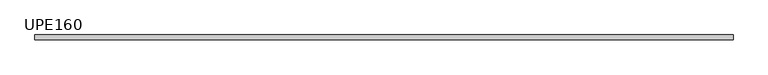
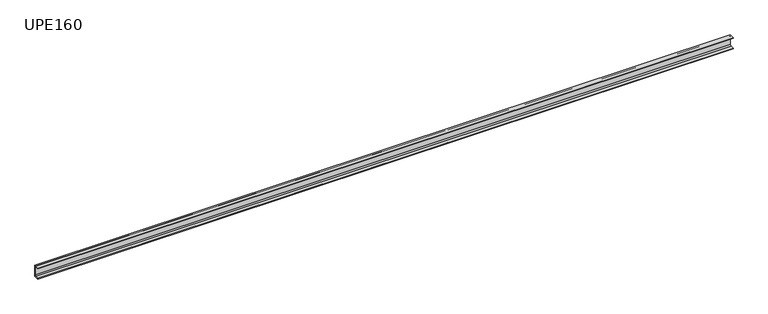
"""IFC4 building model written with IfcOpenShell, lengths in millimetres: beam geometry, U-Canales de ala paralela : UPE160."""

from ifc_helpers import new_model, si_unit, point, frame, frame_2d, origin, place, context, project, spatial, polyline, circle_curve, trimmed, segment, composite_curve, outline, extrude, source, transform, mapped, element, save


def upe160_6c25a5e3(model_context):
    return source(origin(), model_context, "Body", "SweptSolid", [
        extrude(outline(composite_curve([segment(polyline([(22.7, 80.0), (22.7, -80.0), (-47.3, -80.0), (-47.3, -70.5), (2.2, -70.5)]), True, "CONTINUOUS"), segment(trimmed(circle_curve(frame_2d((2.2, -55.5)), 15.0), [point((2.2, -70.5))], [point((17.2, -55.5))], True, "CARTESIAN"), True, "CONTINUOUS"), segment(polyline([(17.2, -55.5), (17.2, 55.5)]), True, "CONTINUOUS"), segment(trimmed(circle_curve(frame_2d((2.2, 55.5)), 15.0), [point((17.2, 55.5))], [point((2.2, 70.5))], True, "CARTESIAN"), True, "CONTINUOUS"), segment(polyline([(2.2, 70.5), (-47.3, 70.5), (-47.3, 80.0), (22.7, 80.0)]), True, "CONTINUOUS")], self_intersect=False)), frame((-4805.0, 0.0, 0.0), z_axis=(1.0, 0.0, 0.0), x_axis=(0.0, 1.0, 0.0)), (0.0, 0.0, 1.0), 9610.0),
    ])


if __name__ == "__main__":
    model = new_model("IFC4")
    model_context = context("Model", 3, world=origin())
    ifc_project = project(units=[si_unit("LENGTHUNIT", "METRE", prefix="MILLI")], contexts=[model_context])
    site = spatial("IfcSite", under=ifc_project)
    building = spatial("IfcBuilding", under=site)
    placement = place(None, origin())
    upe160_shape = upe160_6c25a5e3(model_context)
    element("IfcBeam", 1, ObjectType="U-Canales de ala paralela : UPE160", at=placement, inside=building, context=model_context, shape_type="MappedRepresentation", body=[
        mapped(upe160_shape, transform((0.0, 0.0, 0.0), x_axis=(1.0, 0.0, 0.0), y_axis=(0.0, 1.0, 0.0), z_axis=(0.0, 0.0, 1.0))),
    ])
    save(model, "model.ifc")
